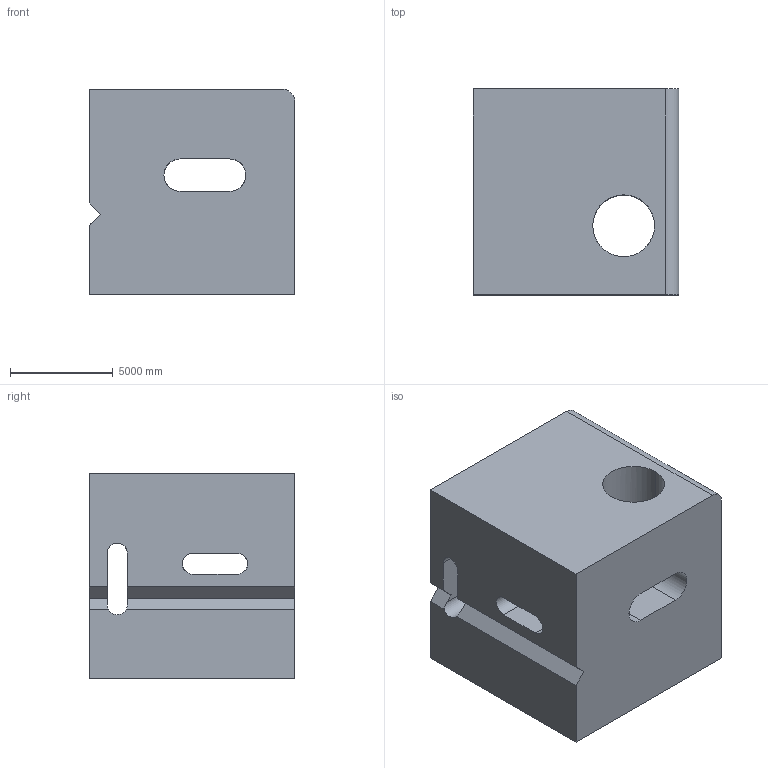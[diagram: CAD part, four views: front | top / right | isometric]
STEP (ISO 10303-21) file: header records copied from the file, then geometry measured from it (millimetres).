
FILE_DESCRIPTION (( 'STEP AP203' ), '1' );
FILE_NAME ('58.STEP', '2022-08-30T14:15:12', ( 'user' ), ( '' ), 'SwSTEP 2.0', 'SolidWorks 2021', '' );
FILE_SCHEMA (( 'CONFIG_CONTROL_DESIGN' ));
Length unit declared in the file: centimetre
Products named in the file (1): 58
Bounding box: 10000 x 10000 x 10000 mm (x, y, z)
Volume: 831465138055.2 mm3; surface area: 829814359.2 mm2
Topology: 1 solids, 1 shells, 36 faces, 120 edges, 80 vertices
Faces by surface type: plane 20, cylinder 16
Entity records: 2383 total; most frequent: CARTESIAN_POINT 1227, ORIENTED_EDGE 240, DIRECTION 213, EDGE_CURVE 120, VERTEX_POINT 80, LINE 75, VECTOR 75, AXIS2_PLACEMENT_3D 69
